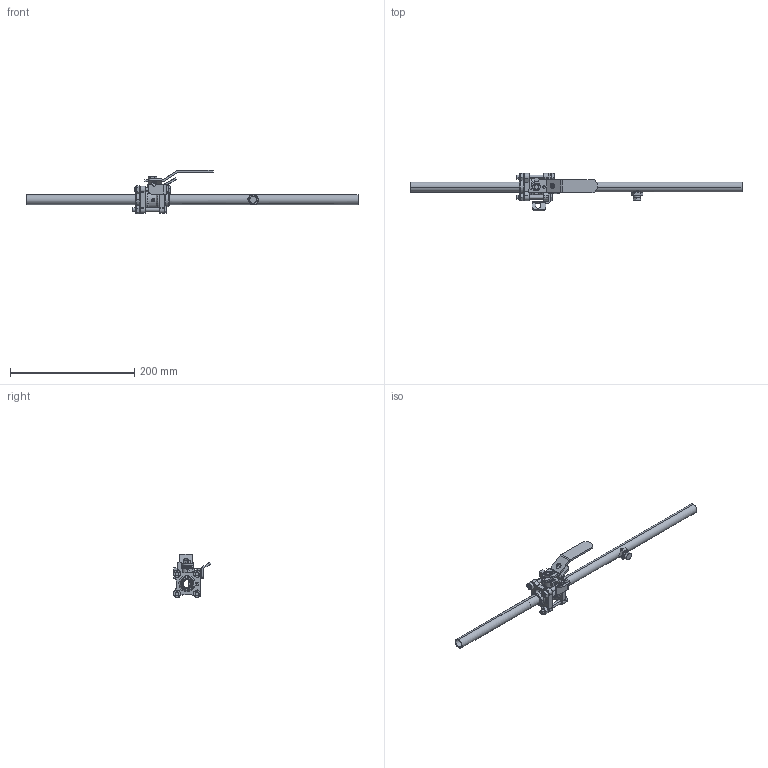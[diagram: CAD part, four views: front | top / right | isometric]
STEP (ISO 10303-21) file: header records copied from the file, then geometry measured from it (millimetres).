
FILE_DESCRIPTION(('Open CASCADE Model'),'2;1');
FILE_NAME('Open CASCADE Shape Model','2021-12-14T16:22:46',('Author'),( 'Open CASCADE'),'Open CASCADE STEP processor 7.3','Open CASCADE 7.3' ,'Unknown');
FILE_SCHEMA(('AUTOMOTIVE_DESIGN { 1 0 10303 214 1 1 1 1 }'));
Length unit declared in the file: millimetre
Products named in the file (30): Open CASCADE STEP translator 7.3 1; Open CASCADE STEP translator 7.3 1.1; Open CASCADE STEP translator 7.3 1.2; Open CASCADE STEP translator 7.3 1.3; Open CASCADE STEP translator 7.3 1.4; Open CASCADE STEP translator 7.3 1.5; Open CASCADE STEP translator 7.3 1.6; Open CASCADE STEP translator 7.3 1.7; Open CASCADE STEP translator 7.3 1.8; Open CASCADE STEP translator 7.3 1.9; Open CASCADE STEP translator 7.3 1.10; Open CASCADE STEP translator 7.3 1.11; Open CASCADE STEP translator 7.3 1.12; Open CASCADE STEP translator 7.3 1.13; Open CASCADE STEP translator 7.3 1.14; Open CASCADE STEP translator 7.3 1.15; Open CASCADE STEP translator 7.3 1.16; Open CASCADE STEP translator 7.3 1.17; Open CASCADE STEP translator 7.3 1.18; Open CASCADE STEP translator 7.3 1.19; Open CASCADE STEP translator 7.3 1.20; Open CASCADE STEP translator 7.3 1.21; Open CASCADE STEP translator 7.3 1.22; Open CASCADE STEP translator 7.3 1.23; Open CASCADE STEP translator 7.3 1.24; Open CASCADE STEP translator 7.3 1.25; Open CASCADE STEP translator 7.3 1.26; Open CASCADE STEP translator 7.3 1.27; Open CASCADE STEP translator 7.3 1.28; Open CASCADE STEP translator 7.3 1.29
Assembly tree (29 placements, depth 2):
  Open CASCADE STEP translator 7.3 1
    Open CASCADE STEP translator 7.3 1.1
    Open CASCADE STEP translator 7.3 1.2
    Open CASCADE STEP translator 7.3 1.3
    Open CASCADE STEP translator 7.3 1.4
    Open CASCADE STEP translator 7.3 1.5
    Open CASCADE STEP translator 7.3 1.6
    Open CASCADE STEP translator 7.3 1.7
    Open CASCADE STEP translator 7.3 1.8
    Open CASCADE STEP translator 7.3 1.9
    Open CASCADE STEP translator 7.3 1.10
    Open CASCADE STEP translator 7.3 1.11
    Open CASCADE STEP translator 7.3 1.12
    Open CASCADE STEP translator 7.3 1.13
    Open CASCADE STEP translator 7.3 1.14
    Open CASCADE STEP translator 7.3 1.15
    Open CASCADE STEP translator 7.3 1.16
    Open CASCADE STEP translator 7.3 1.17
    Open CASCADE STEP translator 7.3 1.18
    Open CASCADE STEP translator 7.3 1.19
    Open CASCADE STEP translator 7.3 1.20
    Open CASCADE STEP translator 7.3 1.21
    Open CASCADE STEP translator 7.3 1.22
    Open CASCADE STEP translator 7.3 1.23
    Open CASCADE STEP translator 7.3 1.24
    Open CASCADE STEP translator 7.3 1.25
    Open CASCADE STEP translator 7.3 1.26
    Open CASCADE STEP translator 7.3 1.27
    Open CASCADE STEP translator 7.3 1.28
    Open CASCADE STEP translator 7.3 1.29
Bounding box: 533.4 x 60.71 x 69.68 mm (x, y, z)
Volume: 92565.5 mm3; surface area: 90573.5 mm2
Topology: 29 solids, 29 shells, 1105 faces, 2888 edges, 1886 vertices
Faces by surface type: plane 438, bspline 248, cylinder 229, cone 167, torus 19, sphere 4
Entity records: 112034 total; most frequent: CARTESIAN_POINT 62349, DIRECTION 6448, ORIENTED_EDGE 5776, PCURVE 5776, DEFINITIONAL_REPRESENTATION 5776, B_SPLINE_CURVE_WITH_KNOTS 4332, LINE 2967, VECTOR 2967
